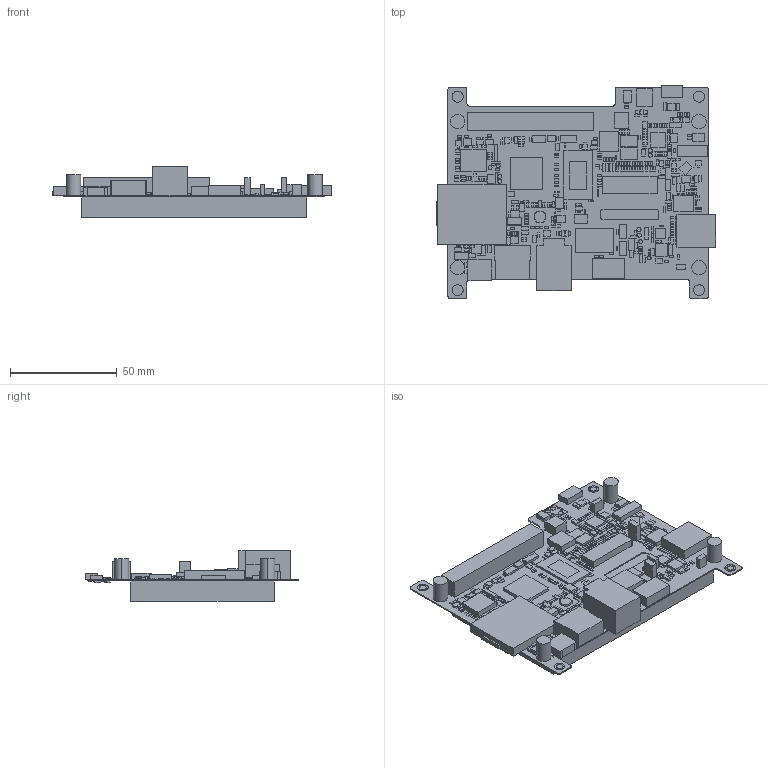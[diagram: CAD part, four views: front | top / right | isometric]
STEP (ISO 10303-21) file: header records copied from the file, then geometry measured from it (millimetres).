
FILE_DESCRIPTION((''),'2;1');
FILE_NAME('123928_LPC4088_DISPLAY_MODULE_4_ASM','2015-01-28T',('Administrator'),(''),'PRO/ENGINEER BY PARAMETRIC TECHNOLOGY CORPORATION, 2007170','PRO/ENGINEER BY PARAMETRIC TECHNOLOGY CORPORATION, 2007170','');
FILE_SCHEMA(('CONFIG_CONTROL_DESIGN'));
Length unit declared in the file: inch
Products named in the file (72): 123928-LPC4088-DISPLAY-MOD-3971; 4_3_C; MTOP-6; CHIP-LED0603; 6_2-PAD; CT3528; DFN1410-6; TRANSFLASH-TFCMF-108-KINGFONT; EHF-105-01-L-D; C0805; C0603; CDPH4D19FNP-470MC; C0402K; SC70-3; KMR221GLFS; TFBGA208_0_8MM; HVQFN24; FBGA-90-0_8MM; SSOP08; SOT143; SOT353-5; HVQFN33; TO263-5; SOT23-5L; TSSOP16; LGA-14; SJ_2-0402; 86L_400MIL_TSOP-2; GOLD-CAP-SD; DFN10-3X3; SOD323-R; XBEE-PRO; 1X02-100MIL; ASFL1-OSCILLATOR; SSOP20; TSSOP8-3MM_BODY; 7M-CRYSTAL; MM39SL; SOD123; 555153-1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
Assembly tree (458 placements, depth 3):
  123928_LPC4088_DISPLAY_MODULE_4_ASM
    123928-LPC4088-DISPLAY-MOD-3983_ASM
      123928-LPC4088-DISPLAY-MOD-3971
      4_3_C
      MTOP-6  x2
      CHIP-LED0603  x16
      6_2-PAD  x4
      CT3528  x4
      DFN1410-6  x3
      TRANSFLASH-TFCMF-108-KINGFONT
      EHF-105-01-L-D
      C0805  x20
      C0603  x8
      CDPH4D19FNP-470MC
      C0402K  x28
      SC70-3  x2
      KMR221GLFS  x2
      TFBGA208_0_8MM
      HVQFN24
      FBGA-90-0_8MM
      SSOP08
      SOT143  x3
      SOT353-5  x3
      HVQFN33
      TO263-5
      SOT23-5L  x3
      TSSOP16  x2
      LGA-14
      SJ_2-0402  x9
      86L_400MIL_TSOP-2
      GOLD-CAP-SD
      DFN10-3X3
      SOD323-R  x7
      XBEE-PRO
      1X02-100MIL  x2
      ASFL1-OSCILLATOR
      SSOP20
      TSSOP8-3MM_BODY
      7M-CRYSTAL  x3
      MM39SL
      SOD123
      555153-1
      USB_CON_A_RA
      CONN2-SMT-100MIL
      B1_00  x8
      TSSOP8
      C0402  x91
      SOT323  x7
      MA04-1  x2
      2X23
      MA06-1
      SOT363_PHILIPS  x2
      P-LCC-4-3
      QFN20_4X4_0_5MM
      DFN2018-6
      MA03-1
      SOT23  x5
      2X06_PMOD
      R0402  x166
      R0603  x3
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Bounding box: 130.91 x 99.84 x 23.58 mm (x, y, z)
Volume: 99178.8 mm3; surface area: 61541.8 mm2
Topology: 457 solids, 457 shells, 2909 faces, 5985 edges, 3990 vertices
Faces by surface type: plane 2781, cylinder 128
Entity records: 22555 total; most frequent: DIRECTION 4609, CARTESIAN_POINT 3713, ORIENTED_EDGE 2586, AXIS2_PLACEMENT_3D 1758, EDGE_CURVE 1293, VECTOR 1093, LINE 1093, VERTEX_POINT 862
